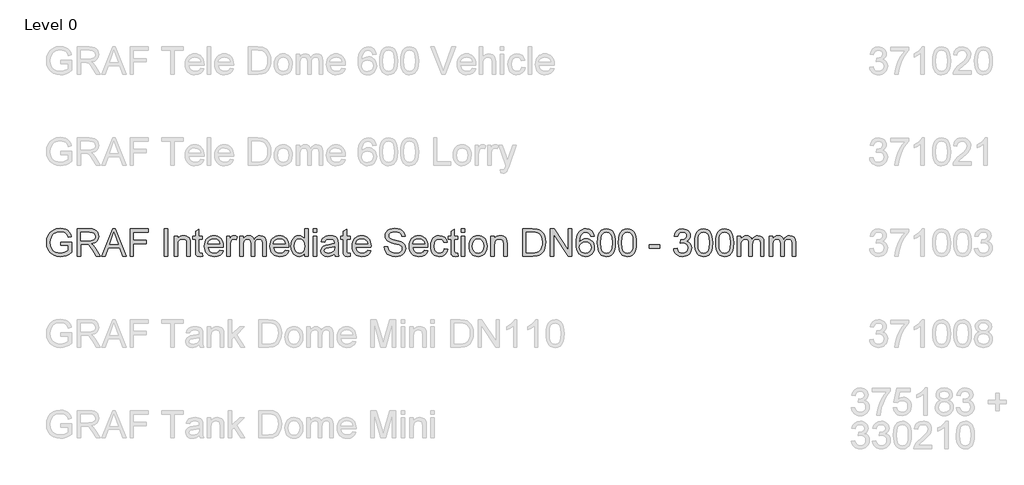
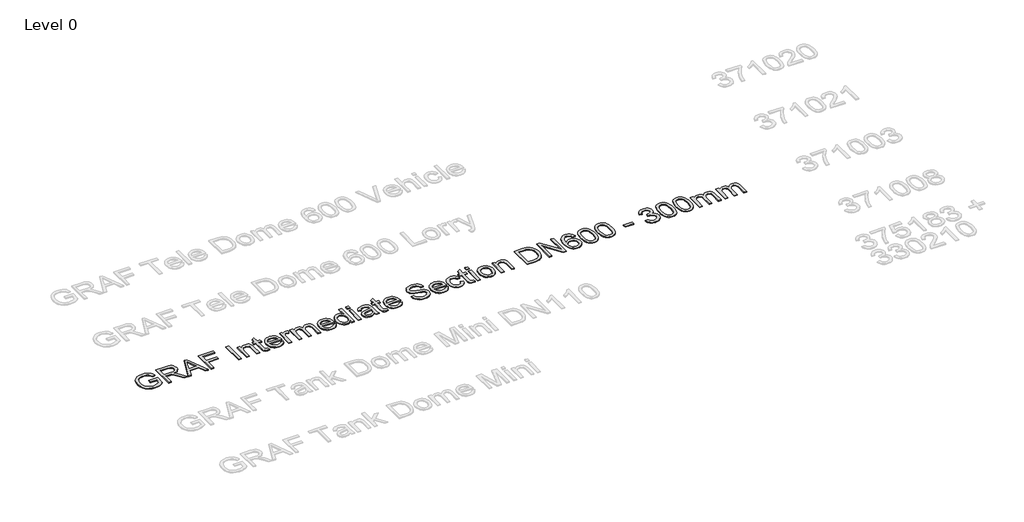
# One storey, part 6 of 19: 1 proxy.
"""IFC4 building model written with IfcOpenShell, lengths in millimetres."""

from ifc_helpers import new_model, si_unit, origin, origin_with_axes, place, context, project, spatial, polyline, outline, extrude, element, save

model = new_model("IFC4")

# Units and contexts
model_context = context("Model", 3, world=origin())
ifc_project = project(units=[si_unit("LENGTHUNIT", "METRE", prefix="MILLI")], contexts=[model_context])

# Site, building, storey
site = spatial("IfcSite", under=ifc_project)
building = spatial("IfcBuilding", under=site)
storey = spatial("IfcBuildingStorey", under=building, Name="Level 0", Elevation=0.0)

# Proxy
placement = place(None, origin())
element("IfcBuildingElementProxy", 1, Name="300mm Arial", ObjectType="300mm Arial", at=placement, inside=storey, context=model_context, shape_type="SweptSolid", body=[
    extrude(outline(polyline([(-15240.9940387, -13082.9794047), (-15240.9940387, -13045.3082884), (-15118.5629107, -13045.3082884), (-15118.5629107, -13157.9537553), (-15148.3153671, -13178.6471176), (-15179.0059225, -13193.4911561), (-15210.5610007, -13202.4306885), (-15242.9070251, -13205.4105327), (-15285.1674693, -13200.674052), (-15323.3628175, -13186.46461), (-15355.0926395, -13163.2788472), (-15377.9565055, -13131.6134045), (-15391.7796715, -13093.6295885), (-15396.3873935, -13051.4887059), (-15391.7980656, -13009.0443207), (-15378.0300819, -12969.5613856), (-15355.6536596, -12936.442809), (-15325.2390156, -12913.0914993), (-15288.1932987, -12899.2407422), (-15245.9236575, -12894.6238232), (-15214.8928112, -12897.3001647), (-15186.9889618, -12905.3291892), (-15163.4904994, -12918.1314827), (-15145.6758138, -12935.1276309), (-15132.4964413, -12957.1361712), (-15122.9039183, -12984.9756412), (-15157.6319786, -12994.7613023), (-15165.3850917, -12974.9048716), (-15174.8120678, -12959.9228773), (-15187.2832674, -12948.6289001), (-15204.169051, -12939.8365204), (-15224.3013932, -12934.1803347), (-15246.5122687, -12932.2949395), (-15272.5123287, -12934.3274875), (-15294.7415982, -12940.4251316), (-15313.1173039, -12949.8245166), (-15327.5566722, -12961.7622873), (-15346.9440533, -12990.7881767), (-15355.7732212, -13019.225455), (-15358.7162772, -13049.9436015), (-15355.175413, -13085.9684459), (-15344.5528204, -13115.6105377), (-15327.1703961, -13138.6583447), (-15303.3500369, -13154.9003348), (-15275.4737787, -13164.529646), (-15245.9236575, -13167.7394164), (-15219.831627, -13165.3205923), (-15194.3833899, -13158.0641199), (-15172.2828791, -13148.0669267), (-15156.234027, -13137.42594), (-15156.234027, -13082.9794047), (-15240.9940387, -13082.9794047)])), origin_with_axes(), (0.0, 0.0, 1.0), 10.0),
    extrude(outline(polyline([(-15057.3473467, -13200.7016432), (-15057.3473467, -12899.3327127), (-14927.4850024, -12899.3327127), (-14892.5821982, -12901.3652607), (-14867.1891434, -12907.4629048), (-14848.6294968, -12918.7200939), (-14834.2269167, -12936.2312768), (-14824.9838815, -12957.9455116), (-14821.9028698, -12981.811856), (-14827.0072325, -13011.4999331), (-14842.3203206, -13036.1112385), (-14853.9200997, -13046.1406214), (-14868.3019865, -13054.1558504), (-14905.4120827, -13064.1438466), (-14884.0013506, -13080.257078), (-14853.467145, -13119.0318402), (-14803.2144645, -13200.7016432), (-14846.9924219, -13200.7016432), (-14886.2086426, -13138.2352804), (-14914.5355562, -13096.8853441), (-14934.4379722, -13077.3508102), (-14952.3538253, -13070.1771113), (-14974.2060158, -13068.8527361), (-15019.6762304, -13068.8527361), (-15019.6762304, -13200.7016432), (-15057.3473467, -13200.7016432)]), holes=[polyline([(-15019.6762304, -13031.1816198), (-14935.3576771, -13031.1816198), (-14911.1418448, -13029.8480476), (-14892.3522719, -13025.8473309), (-14878.2072092, -13018.9127553), (-14867.9249074, -13008.7776063), (-14861.6617165, -12996.5179388), (-14859.5739861, -12983.2098076), (-14863.5563087, -12964.834102), (-14875.5032765, -12950.0268517), (-14896.058683, -12940.2595847), (-14925.8663217, -12937.003829), (-15019.6762304, -12937.003829), (-15019.6762304, -13031.1816198)])]), origin_with_axes(), (0.0, 0.0, 1.0), 10.0),
    extrude(outline(polyline([(-14791.0743586, -13200.7016432), (-14670.7769462, -12899.3327127), (-14638.6976362, -12899.3327127), (-14518.4002238, -13200.7016432), (-14558.2050557, -13200.7016432), (-14592.7123868, -13106.5238524), (-14716.835772, -13106.5238524), (-14751.2695268, -13200.7016432), (-14791.0743586, -13200.7016432)]), holes=[polyline([(-14703.003409, -13068.8527361), (-14606.4711735, -13068.8527361), (-14633.6208647, -12994.7613023), (-14654.7372912, -12937.003829), (-14673.499273, -12988.2865792), (-14703.003409, -13068.8527361)])]), origin_with_axes(), (0.0, 0.0, 1.0), 10.0),
    extrude(outline(polyline([(-14478.1539335, -13200.7016432), (-14478.1539335, -12899.3327127), (-14275.6716834, -12899.3327127), (-14275.6716834, -12937.003829), (-14440.4828172, -12937.003829), (-14440.4828172, -13026.4727303), (-14299.2161311, -13026.4727303), (-14299.2161311, -13064.1438466), (-14440.4828172, -13064.1438466), (-14440.4828172, -13200.7016432), (-14478.1539335, -13200.7016432)])), origin_with_axes(), (0.0, 0.0, 1.0), 10.0),
    extrude(outline(polyline([(-14101.4427705, -13200.7016432), (-14101.4427705, -12899.3327127), (-14063.7716542, -12899.3327127), (-14063.7716542, -13200.7016432), (-14101.4427705, -13200.7016432)])), origin_with_axes(), (0.0, 0.0, 1.0), 10.0),
    extrude(outline(polyline([(-13993.1383111, -13200.7016432), (-13993.1383111, -12979.3838349), (-13955.4671948, -12979.3838349), (-13955.4671948, -13010.2859225), (-13942.3797928, -12994.70612), (-13926.6620346, -12983.5776896), (-13908.3139201, -12976.9006314), (-13887.3354493, -12974.6749453), (-13868.7666056, -12976.4683701), (-13851.7612603, -12981.8486442), (-13837.5794094, -12990.1443832), (-13827.4810487, -13000.6842024), (-13816.1870714, -13028.3857166), (-13814.2005086, -13064.8060342), (-13814.2005086, -13200.7016432), (-13851.8716249, -13200.7016432), (-13851.8716249, -13069.8828057), (-13856.2126325, -13036.5526969), (-13862.2183061, -13026.6290801), (-13871.5533117, -13018.9311494), (-13883.5186736, -13013.9923336), (-13897.415416, -13012.3460616), (-13919.4791386, -13016.0432757), (-13938.2871056, -13027.1349178), (-13945.8033946, -13036.1894135), (-13951.1721725, -13048.5640441), (-13955.4671948, -13083.2737103), (-13955.4671948, -13200.7016432), (-13993.1383111, -13200.7016432)])), origin_with_axes(), (0.0, 0.0, 1.0), 10.0),
    extrude(outline(polyline([(-13682.3516016, -13169.2845208), (-13677.642712, -13201.8052892), (-13705.8224729, -13205.4105327), (-13723.9038729, -13203.8470342), (-13737.386748, -13199.1565388), (-13746.9148917, -13191.9276576), (-13753.1320974, -13182.7490018), (-13756.5534, -13166.9852583), (-13757.6938342, -13140.001114), (-13757.6938342, -13017.0549512), (-13785.9471714, -13017.0549512), (-13785.9471714, -12979.3838349), (-13757.6938342, -12979.3838349), (-13757.6938342, -12925.5994872), (-13720.0227179, -12903.4529911), (-13720.0227179, -12979.3838349), (-13682.3516016, -12979.3838349), (-13682.3516016, -13017.0549512), (-13720.0227179, -13017.0549512), (-13720.0227179, -13138.897468), (-13718.0361551, -13158.3216373), (-13711.5982202, -13165.2010306), (-13698.7591386, -13167.7394164), (-13682.3516016, -13169.2845208)])), origin_with_axes(), (0.0, 0.0, 1.0), 10.0),
    extrude(outline(polyline([(-13489.7285889, -13134.7771896), (-13452.7932366, -13139.4860792), (-13466.1013678, -13167.3163521), (-13487.3373559, -13188.1200789), (-13516.0229545, -13201.0879193), (-13551.6799169, -13205.4105327), (-13575.0542192, -13203.5458308), (-13595.8809386, -13197.9517253), (-13614.1600752, -13188.6282159), (-13629.8916291, -13175.5753029), (-13642.5421712, -13159.1562696), (-13651.5782727, -13139.7343995), (-13656.9999336, -13117.3096927), (-13658.8071539, -13091.882149), (-13656.9815395, -13065.5923819), (-13651.5046963, -13042.4204147), (-13642.3766243, -13022.3662475), (-13629.5973235, -13005.4298801), (-13613.9071564, -12991.9745962), (-13596.0464855, -12982.363679), (-13576.0153109, -12976.5971288), (-13553.8136325, -12974.6749453), (-13532.3270247, -12976.5925302), (-13512.8959575, -12982.3452849), (-13495.5204311, -12991.9332094), (-13480.2004452, -13005.3563037), (-13467.6947566, -13022.2558829), (-13458.762122, -13042.2732619), (-13453.4025411, -13065.4084409), (-13451.6160142, -13091.6614198), (-13451.8367434, -13101.8149629), (-13621.1360376, -13101.8149629), (-13614.6153292, -13130.0131178), (-13599.4677881, -13150.7432682), (-13577.6064005, -13163.4903794), (-13550.9441529, -13167.7394164), (-13530.8945842, -13165.7712477), (-13514.0088006, -13159.8667417), (-13500.2868022, -13149.6580163), (-13489.7285889, -13134.7771896)]), holes=[polyline([(-13621.1360376, -13064.1438466), (-13489.2871305, -13064.1438466), (-13494.3822961, -13044.2414306), (-13504.3702923, -13030.0043974), (-13526.3328474, -13016.7606456), (-13553.9607853, -13012.3460616), (-13579.35384, -13015.8685317), (-13600.3507048, -13026.4359421), (-13614.946423, -13042.9078584), (-13621.1360376, -13064.1438466)])]), origin_with_axes(), (0.0, 0.0, 1.0), 10.0),
    extrude(outline(polyline([(-13413.9448979, -13200.7016432), (-13413.9448979, -12979.3838349), (-13380.9826711, -12979.3838349), (-13380.9826711, -13012.1253324), (-13368.8057771, -12993.1426215), (-13357.5853762, -12981.9590088), (-13346.3281872, -12976.4959612), (-13334.0409285, -12974.6749453), (-13315.2789468, -12977.5812131), (-13296.2226594, -12986.3000164), (-13308.8042237, -13020.0715835), (-13322.0479755, -13014.2774421), (-13335.2917273, -13012.3460616), (-13346.5397193, -13014.2038657), (-13356.5920948, -13019.7772779), (-13364.7130899, -13028.643234), (-13370.1669405, -13040.3786697), (-13374.7470713, -13061.4215198), (-13376.2737816, -13084.3773563), (-13376.2737816, -13200.7016432), (-13413.9448979, -13200.7016432)])), origin_with_axes(), (0.0, 0.0, 1.0), 10.0),
    extrude(outline(polyline([(-13272.6782117, -13200.7016432), (-13272.6782117, -12979.3838349), (-13235.0070954, -12979.3838349), (-13235.0070954, -13015.8041524), (-13223.67633, -12999.0747187), (-13209.108203, -12985.9689226), (-13191.7993551, -12977.4984396), (-13172.2464271, -12974.6749453), (-13151.2955474, -12977.5536219), (-13134.5017344, -12986.1896518), (-13121.9569583, -13000.0128178), (-13113.7531898, -13018.4529028), (-13100.0219944, -12999.3000464), (-13084.3594184, -12985.6194347), (-13066.765462, -12977.4110677), (-13047.2401251, -12974.6749453), (-13018.9224085, -12979.227485), (-12997.9807259, -12992.8851041), (-12985.0404768, -13016.0156845), (-12980.7270604, -13048.9871084), (-12980.7270604, -13200.7016432), (-13018.3981767, -13200.7016432), (-13018.3981767, -13065.1739161), (-13021.8930556, -13033.7200056), (-13026.8042803, -13025.0471875), (-13034.5481963, -13018.2321736), (-13044.5086013, -13013.8175896), (-13056.069293, -13012.3460616), (-13076.4775467, -13016.1168521), (-13093.1150099, -13027.4292234), (-13104.1790609, -13047.0557279), (-13107.8670779, -13075.7689176), (-13107.8670779, -13200.7016432), (-13145.5381942, -13200.7016432), (-13145.5381942, -13060.9800614), (-13147.717895, -13039.6796939), (-13154.2569975, -13024.4861675), (-13165.7625069, -13015.3810881), (-13182.8414285, -13012.3460616), (-13197.3543732, -13014.3694126), (-13210.7268838, -13020.4394655), (-13221.7633436, -13030.4090676), (-13229.2681363, -13044.131066), (-13233.5723557, -13063.1689593), (-13235.0070954, -13089.0862458), (-13235.0070954, -13200.7016432), (-13272.6782117, -13200.7016432)])), origin_with_axes(), (0.0, 0.0, 1.0), 10.0),
    extrude(outline(polyline([(-12769.2684895, -13134.7771896), (-12732.3331372, -13139.4860792), (-12745.6412684, -13167.3163521), (-12766.8772566, -13188.1200789), (-12795.5628551, -13201.0879193), (-12831.2198175, -13205.4105327), (-12854.5941198, -13203.5458308), (-12875.4208393, -13197.9517253), (-12893.6999759, -13188.6282159), (-12909.4315297, -13175.5753029), (-12922.0820718, -13159.1562696), (-12931.1181733, -13139.7343995), (-12936.5398342, -13117.3096927), (-12938.3470545, -13091.882149), (-12936.5214401, -13065.5923819), (-12931.0445969, -13042.4204147), (-12921.9165249, -13022.3662475), (-12909.1372241, -13005.4298801), (-12893.447057, -12991.9745962), (-12875.5863861, -12982.363679), (-12855.5552115, -12976.5971288), (-12833.3535331, -12974.6749453), (-12811.8669253, -12976.5925302), (-12792.4358582, -12982.3452849), (-12775.0603317, -12991.9332094), (-12759.7403459, -13005.3563037), (-12747.2346573, -13022.2558829), (-12738.3020226, -13042.2732619), (-12732.9424418, -13065.4084409), (-12731.1559148, -13091.6614198), (-12731.376644, -13101.8149629), (-12900.6759382, -13101.8149629), (-12894.1552299, -13130.0131178), (-12879.0076887, -13150.7432682), (-12857.1463011, -13163.4903794), (-12830.4840535, -13167.7394164), (-12810.4344848, -13165.7712477), (-12793.5487012, -13159.8667417), (-12779.8267028, -13149.6580163), (-12769.2684895, -13134.7771896)]), holes=[polyline([(-12900.6759382, -13064.1438466), (-12768.8270311, -13064.1438466), (-12773.9221968, -13044.2414306), (-12783.910193, -13030.0043974), (-12805.8727481, -13016.7606456), (-12833.5006859, -13012.3460616), (-12858.8937406, -13015.8685317), (-12879.8906055, -13026.4359421), (-12894.4863237, -13042.9078584), (-12900.6759382, -13064.1438466)])]), origin_with_axes(), (0.0, 0.0, 1.0), 10.0),
    extrude(outline(polyline([(-12556.9270019, -13200.7016432), (-12556.9270019, -13165.1642424), (-12568.1979866, -13182.7719944), (-12581.8510071, -13195.3489601), (-12597.8860636, -13202.8951396), (-12616.3031559, -13205.4105327), (-12640.656944, -13201.768501), (-12662.9505929, -13190.8424057), (-12681.8229393, -13173.3956021), (-12695.9128197, -13150.1914452), (-12704.6868053, -13122.1680343), (-12707.6114672, -13090.2634682), (-12704.9167315, -13058.7543753), (-12696.8325247, -13030.298703), (-12683.3680437, -13006.515132), (-12664.5324855, -12989.0223431), (-12641.751393, -12978.2617948), (-12616.4503087, -12974.6749453), (-12598.0194208, -12977.2409223), (-12581.7222484, -12984.938853), (-12567.9082795, -12996.738668), (-12556.9270019, -13011.6102977), (-12556.9270019, -12899.3327127), (-12519.2558856, -12899.3327127), (-12519.2558856, -13200.7016432), (-12556.9270019, -13200.7016432)]), holes=[polyline([(-12669.9403508, -13090.1163154), (-12665.6913138, -13124.1913852), (-12652.9442027, -13148.4256117), (-12634.4213442, -13162.9109652), (-12612.8450652, -13167.7394164), (-12591.2779832, -13163.1316944), (-12573.2241743, -13149.3085284), (-12561.001295, -13126.0124011), (-12556.9270019, -13092.985795), (-12561.0748714, -13056.8781772), (-12573.5184799, -13031.8438074), (-12592.0321413, -13017.2204981), (-12614.3901696, -13012.3460616), (-12636.1871778, -13017.02736), (-12654.0478487, -13031.0712552), (-12665.9672253, -13055.195117), (-12669.9403508, -13090.1163154)])]), origin_with_axes(), (0.0, 0.0, 1.0), 10.0),
    extrude(outline(polyline([(-12462.7492112, -12937.003829), (-12462.7492112, -12899.3327127), (-12425.0780949, -12899.3327127), (-12425.0780949, -12937.003829), (-12462.7492112, -12937.003829)])), origin_with_axes(), (0.0, 0.0, 1.0), 10.0),
    extrude(outline(polyline([(-12462.7492112, -13200.7016432), (-12462.7492112, -12979.3838349), (-12425.0780949, -12979.3838349), (-12425.0780949, -13200.7016432), (-12462.7492112, -13200.7016432)])), origin_with_axes(), (0.0, 0.0, 1.0), 10.0),
    extrude(outline(polyline([(-12227.3047342, -13172.4483059), (-12245.3033609, -13187.8809556), (-12263.8354164, -13197.9793164), (-12283.3239651, -13203.5527286), (-12304.1920712, -13205.4105327), (-12335.673573, -13200.9407665), (-12358.8961239, -13187.5314677), (-12373.2159306, -13167.1691993), (-12377.9891995, -13141.8405239), (-12376.1865777, -13126.2239332), (-12370.7787124, -13112.0420823), (-12362.4369881, -13099.9019765), (-12351.8327896, -13090.410621), (-12325.4556506, -13078.049786), (-12292.8613058, -13072.3844033), (-12254.3440609, -13066.4247149), (-12227.5254634, -13059.434957), (-12227.3047342, -13051.0472475), (-12229.8983023, -13034.2350404), (-12237.6790065, -13023.2353687), (-12255.0798249, -13015.0683884), (-12279.3232484, -13012.3460616), (-12301.7640501, -13014.1578805), (-12317.4358231, -13019.5933369), (-12328.122795, -13029.6457125), (-12335.6091936, -13045.3082884), (-12373.2803099, -13040.5993989), (-12366.7412075, -13019.9980071), (-12356.9831375, -13003.8111994), (-12343.0955922, -12991.4319702), (-12324.1680636, -12982.2533144), (-12301.019089, -12976.5695376), (-12274.467206, -12974.6749453), (-12249.0005749, -12976.3488084), (-12228.8130504, -12981.3703976), (-12213.5919329, -12988.9211756), (-12203.0245226, -12998.1826048), (-12196.0163706, -13009.6329319), (-12191.4730279, -13023.7504035), (-12189.6336179, -13056.7126303), (-12189.6336179, -13103.5807964), (-12187.7206316, -13169.0270034), (-12180.2158389, -13200.7016432), (-12217.8869552, -13200.7016432), (-12227.3047342, -13172.4483059)]), holes=[polyline([(-12227.3047342, -13097.1060733), (-12288.0788399, -13108.657568), (-12320.4892436, -13114.7644091), (-12335.1677352, -13124.697223), (-12340.3180832, -13139.1917736), (-12337.512983, -13150.3937803), (-12329.0976823, -13159.5724361), (-12315.2561222, -13165.6976713), (-12296.1722437, -13167.7394164), (-12275.938734, -13165.4861392), (-12258.059669, -13158.7263075), (-12243.5651184, -13148.7659025), (-12233.4851518, -13136.9109052), (-12229.0153855, -13124.697223), (-12227.5254634, -13107.7746512), (-12227.3047342, -13097.1060733)])]), origin_with_axes(), (0.0, 0.0, 1.0), 10.0),
    extrude(outline(polyline([(-12057.7847109, -13169.2845208), (-12053.0758213, -13201.8052892), (-12081.2555822, -13205.4105327), (-12099.3369822, -13203.8470342), (-12112.8198573, -13199.1565388), (-12122.348001, -13191.9276576), (-12128.5652067, -13182.7490018), (-12131.9865093, -13166.9852583), (-12133.1269435, -13140.001114), (-12133.1269435, -13017.0549512), (-12161.3802807, -13017.0549512), (-12161.3802807, -12979.3838349), (-12133.1269435, -12979.3838349), (-12133.1269435, -12925.5994872), (-12095.4558272, -12903.4529911), (-12095.4558272, -12979.3838349), (-12057.7847109, -12979.3838349), (-12057.7847109, -13017.0549512), (-12095.4558272, -13017.0549512), (-12095.4558272, -13138.897468), (-12093.4692644, -13158.3216373), (-12087.0313295, -13165.2010306), (-12074.1922479, -13167.7394164), (-12057.7847109, -13169.2845208)])), origin_with_axes(), (0.0, 0.0, 1.0), 10.0),
    extrude(outline(polyline([(-11865.1616982, -13134.7771896), (-11828.2263459, -13139.4860792), (-11841.5344771, -13167.3163521), (-11862.7704652, -13188.1200789), (-11891.4560638, -13201.0879193), (-11927.1130262, -13205.4105327), (-11950.4873285, -13203.5458308), (-11971.3140479, -13197.9517253), (-11989.5931845, -13188.6282159), (-12005.3247384, -13175.5753029), (-12017.9752805, -13159.1562696), (-12027.011382, -13139.7343995), (-12032.4330429, -13117.3096927), (-12034.2402632, -13091.882149), (-12032.4146488, -13065.5923819), (-12026.9378056, -13042.4204147), (-12017.8097336, -13022.3662475), (-12005.0304328, -13005.4298801), (-11989.3402657, -12991.9745962), (-11971.4795948, -12982.363679), (-11951.4484202, -12976.5971288), (-11929.2467418, -12974.6749453), (-11907.760134, -12976.5925302), (-11888.3290668, -12982.3452849), (-11870.9535404, -12991.9332094), (-11855.6335545, -13005.3563037), (-11843.1278659, -13022.2558829), (-11834.1952313, -13042.2732619), (-11828.8356504, -13065.4084409), (-11827.0491235, -13091.6614198), (-11827.2698527, -13101.8149629), (-11996.5691469, -13101.8149629), (-11990.0484385, -13130.0131178), (-11974.9008974, -13150.7432682), (-11953.0395098, -13163.4903794), (-11926.3772622, -13167.7394164), (-11906.3276935, -13165.7712477), (-11889.4419099, -13159.8667417), (-11875.7199115, -13149.6580163), (-11865.1616982, -13134.7771896)]), holes=[polyline([(-11996.5691469, -13064.1438466), (-11864.7202398, -13064.1438466), (-11869.8154054, -13044.2414306), (-11879.8034016, -13030.0043974), (-11901.7659567, -13016.7606456), (-11929.3938946, -13012.3460616), (-11954.7869493, -13015.8685317), (-11975.7838141, -13026.4359421), (-11990.3795323, -13042.9078584), (-11996.5691469, -13064.1438466)])]), origin_with_axes(), (0.0, 0.0, 1.0), 10.0),
    extrude(outline(polyline([(-11681.0735478, -13097.1060733), (-11643.4024315, -13097.1060733), (-11639.0798181, -13118.0109677), (-11631.2623257, -13134.8139778), (-11619.0670375, -13148.1497002), (-11601.6110369, -13158.6527311), (-11580.2738811, -13165.4677451), (-11556.4351278, -13167.7394164), (-11535.44746, -13166.0195681), (-11517.0717544, -13160.8600231), (-11502.1817306, -13152.6930428), (-11491.6511085, -13141.9508885), (-11485.3879175, -13129.6176447), (-11483.3001872, -13116.6773955), (-11484.8636857, -13104.0682401), (-11489.5541811, -13093.169736), (-11499.0823248, -13083.8715186), (-11515.158768, -13076.0632232), (-11570.0099735, -13061.6790372), (-11606.0164237, -13052.1600906), (-11629.0550337, -13043.1009964), (-11647.8078184, -13030.4274617), (-11661.0975555, -13015.0683884), (-11669.0162154, -12997.3548703), (-11671.6557687, -12977.6180013), (-11668.390816, -12955.5542786), (-11658.5959579, -12934.9804781), (-11642.5287118, -12917.5428715), (-11620.446595, -12904.8877309), (-11593.9406973, -12897.1898001), (-11564.6021081, -12894.6238232), (-11532.8171038, -12897.3093618), (-11505.0052249, -12905.3659774), (-11482.159753, -12918.6281234), (-11465.2739694, -12936.9302526), (-11454.5869975, -12959.131931), (-11450.3379604, -12984.0927244), (-11488.0090767, -12984.0927244), (-11494.9252582, -12961.6151345), (-11509.3462325, -12945.3915385), (-11531.8790047, -12935.5690892), (-11563.1305802, -12932.2949395), (-11595.1179196, -12935.532301), (-11617.0620806, -12945.2443857), (-11629.7540095, -12959.5366012), (-11633.9846524, -12976.5143553), (-11630.9864142, -12990.9905118), (-11621.9916994, -13002.633977), (-11600.7281201, -13013.0450374), (-11560.4818298, -13023.6768271), (-11518.9479525, -13033.7751879), (-11493.8216123, -13042.5859616), (-11472.3465008, -13056.2527778), (-11457.3645065, -13073.1201672), (-11448.5629298, -13093.0041891), (-11445.6290709, -13115.7209023), (-11449.0043882, -13138.9434532), (-11459.1303401, -13160.7864467), (-11475.5930594, -13179.5852166), (-11497.9786788, -13193.6750971), (-11524.8984438, -13202.4766738), (-11554.9635999, -13205.4105327), (-11591.871361, -13202.2467476), (-11622.2492168, -13192.7553921), (-11646.446655, -13176.8996781), (-11664.8131636, -13154.6428174), (-11676.6037816, -13127.5299143), (-11681.0735478, -13097.1060733)])), origin_with_axes(), (0.0, 0.0, 1.0), 10.0),
    extrude(outline(polyline([(-11238.8793896, -13134.7771896), (-11201.9440373, -13139.4860792), (-11215.2521685, -13167.3163521), (-11236.4881566, -13188.1200789), (-11265.1737552, -13201.0879193), (-11300.8307176, -13205.4105327), (-11324.2050199, -13203.5458308), (-11345.0317393, -13197.9517253), (-11363.310876, -13188.6282159), (-11379.0424298, -13175.5753029), (-11391.6929719, -13159.1562696), (-11400.7290734, -13139.7343995), (-11406.1507343, -13117.3096927), (-11407.9579546, -13091.882149), (-11406.1323402, -13065.5923819), (-11400.655497, -13042.4204147), (-11391.527425, -13022.3662475), (-11378.7481242, -13005.4298801), (-11363.0579571, -12991.9745962), (-11345.1972862, -12982.363679), (-11325.1661116, -12976.5971288), (-11302.9644332, -12974.6749453), (-11281.4778254, -12976.5925302), (-11262.0467583, -12982.3452849), (-11244.6712318, -12991.9332094), (-11229.3512459, -13005.3563037), (-11216.8455574, -13022.2558829), (-11207.9129227, -13042.2732619), (-11202.5533418, -13065.4084409), (-11200.7668149, -13091.6614198), (-11200.9875441, -13101.8149629), (-11370.2868383, -13101.8149629), (-11363.7661299, -13130.0131178), (-11348.6185888, -13150.7432682), (-11326.7572012, -13163.4903794), (-11300.0949536, -13167.7394164), (-11280.0453849, -13165.7712477), (-11263.1596013, -13159.8667417), (-11249.4376029, -13149.6580163), (-11238.8793896, -13134.7771896)]), holes=[polyline([(-11370.2868383, -13064.1438466), (-11238.4379312, -13064.1438466), (-11243.5330968, -13044.2414306), (-11253.521093, -13030.0043974), (-11275.4836481, -13016.7606456), (-11303.111586, -13012.3460616), (-11328.5046407, -13015.8685317), (-11349.5015056, -13026.4359421), (-11364.0972237, -13042.9078584), (-11370.2868383, -13064.1438466)])]), origin_with_axes(), (0.0, 0.0, 1.0), 10.0),
    extrude(outline(polyline([(-11021.8290125, -13120.650521), (-10984.1578961, -13125.3594106), (-10994.6609271, -13158.8642633), (-11014.3977961, -13184.1837416), (-11041.5106992, -13200.1038349), (-11074.1418322, -13205.4105327), (-11095.269755, -13203.5596264), (-11114.2133785, -13198.0069076), (-11130.9727026, -13188.7523761), (-11145.5477274, -13175.7960321), (-11157.3452432, -13159.3815973), (-11165.7720401, -13139.7527936), (-11170.8281183, -13116.909621), (-11172.5134777, -13090.8520794), (-11169.6348011, -13057.3288326), (-11160.9987712, -13028.275352), (-11146.4674324, -13004.8136778), (-11125.9028289, -12988.06585), (-11101.3007205, -12978.0226715), (-11074.656867, -12974.6749453), (-11042.8258773, -12979.2734703), (-11017.3776403, -12993.0690451), (-10999.1214963, -13015.3259058), (-10988.8667857, -13045.3082884), (-11026.537902, -13050.0171779), (-11033.3713101, -13033.5820498), (-11044.0122968, -13021.8006289), (-11057.8722509, -13014.7097035), (-11074.3625614, -13012.3460616), (-11098.7071524, -13016.9997689), (-11118.0301542, -13030.9608906), (-11130.6393096, -13054.9835849), (-11134.8423614, -13089.8220098), (-11130.7312801, -13125.1294843), (-11118.3980362, -13149.234952), (-11099.4245223, -13163.1133003), (-11075.392631, -13167.7394164), (-11055.8856882, -13164.8515427), (-11039.8920184, -13156.1879218), (-11028.2577503, -13141.5278242), (-11021.8290125, -13120.650521)])), origin_with_axes(), (0.0, 0.0, 1.0), 10.0),
    extrude(outline(polyline([(-10871.1445472, -13169.2845208), (-10866.4356577, -13201.8052892), (-10894.6154185, -13205.4105327), (-10912.6968186, -13203.8470342), (-10926.1796937, -13199.1565388), (-10935.7078374, -13191.9276576), (-10941.9250431, -13182.7490018), (-10945.3463457, -13166.9852583), (-10946.4867798, -13140.001114), (-10946.4867798, -13017.0549512), (-10974.7401171, -13017.0549512), (-10974.7401171, -12979.3838349), (-10946.4867798, -12979.3838349), (-10946.4867798, -12925.5994872), (-10908.8156635, -12903.4529911), (-10908.8156635, -12979.3838349), (-10871.1445472, -12979.3838349), (-10871.1445472, -13017.0549512), (-10908.8156635, -13017.0549512), (-10908.8156635, -13138.897468), (-10906.8291008, -13158.3216373), (-10900.3911658, -13165.2010306), (-10887.5520842, -13167.7394164), (-10871.1445472, -13169.2845208)])), origin_with_axes(), (0.0, 0.0, 1.0), 10.0),
    extrude(outline(polyline([(-10833.4734309, -12937.003829), (-10833.4734309, -12899.3327127), (-10795.8023146, -12899.3327127), (-10795.8023146, -12937.003829), (-10833.4734309, -12937.003829)])), origin_with_axes(), (0.0, 0.0, 1.0), 10.0),
    extrude(outline(polyline([(-10833.4734309, -13200.7016432), (-10833.4734309, -12979.3838349), (-10795.8023146, -12979.3838349), (-10795.8023146, -13200.7016432), (-10833.4734309, -13200.7016432)])), origin_with_axes(), (0.0, 0.0, 1.0), 10.0),
    extrude(outline(polyline([(-10748.7134192, -13090.042739), (-10746.6762727, -13061.3801331), (-10740.564833, -13036.6814556), (-10730.3791003, -13015.9467067), (-10716.1190745, -12999.1758862), (-10701.7624796, -12988.4567246), (-10685.9159627, -12980.8001806), (-10668.5795236, -12976.2062541), (-10649.7531625, -12974.6749453), (-10628.9701291, -12976.5396472), (-10610.1782569, -12982.1337528), (-10593.377546, -12991.4572621), (-10578.5679965, -13004.5101751), (-10566.4807737, -13020.8510335), (-10557.8470431, -13040.0383788), (-10552.6668047, -13062.0722111), (-10550.9400586, -13086.9525303), (-10553.9934792, -13125.0099227), (-10563.1537409, -13153.9806298), (-10578.1541292, -13175.6764705), (-10598.7279298, -13191.9092635), (-10623.1644913, -13202.0352154), (-10649.7531625, -13205.4105327), (-10670.8396986, -13203.5527286), (-10689.8063148, -13197.9793164), (-10706.6530109, -13188.690296), (-10721.379787, -13175.6856675), (-10733.3382511, -13159.18616), (-10741.8800112, -13139.4125028), (-10747.0050672, -13116.3646958), (-10748.7134192, -13090.042739)]), holes=[polyline([(-10711.0423029, -13089.9691626), (-10706.6829013, -13124.0626265), (-10693.6046964, -13148.3520353), (-10673.9230096, -13162.8925711), (-10649.7531625, -13167.7394164), (-10625.69368, -13162.86498), (-10606.0487815, -13148.2416707), (-10592.9705766, -13123.6303652), (-10588.6111749, -13088.7919402), (-10592.9981677, -13055.6917577), (-10606.1591461, -13031.7334428), (-10625.8316358, -13017.1929069), (-10649.7531625, -13012.3460616), (-10673.9230096, -13017.1745128), (-10693.6046964, -13031.6598664), (-10706.6829013, -13055.8940928), (-10711.0423029, -13089.9691626)])]), origin_with_axes(), (0.0, 0.0, 1.0), 10.0),
    extrude(outline(polyline([(-10508.5600528, -13200.7016432), (-10508.5600528, -12979.3838349), (-10470.8889365, -12979.3838349), (-10470.8889365, -13010.2859225), (-10457.8015345, -12994.70612), (-10442.0837763, -12983.5776896), (-10423.7356617, -12976.9006314), (-10402.757191, -12974.6749453), (-10384.1883473, -12976.4683701), (-10367.183002, -12981.8486442), (-10353.0011511, -12990.1443832), (-10342.9027904, -13000.6842024), (-10331.6088131, -13028.3857166), (-10329.6222503, -13064.8060342), (-10329.6222503, -13200.7016432), (-10367.2933666, -13200.7016432), (-10367.2933666, -13069.8828057), (-10371.6343742, -13036.5526969), (-10377.6400477, -13026.6290801), (-10386.9750534, -13018.9311494), (-10398.9404153, -13013.9923336), (-10412.8371576, -13012.3460616), (-10434.9008803, -13016.0432757), (-10453.7088473, -13027.1349178), (-10461.2251363, -13036.1894135), (-10466.5939142, -13048.5640441), (-10470.8889365, -13083.2737103), (-10470.8889365, -13200.7016432), (-10508.5600528, -13200.7016432)])), origin_with_axes(), (0.0, 0.0, 1.0), 10.0),
    extrude(outline(polyline([(-10155.3933374, -13200.7016432), (-10155.3933374, -12899.3327127), (-10051.4298856, -12899.3327127), (-9997.6455379, -12903.6737203), (-9973.6228436, -12912.0430357), (-9953.3525457, -12925.2316052), (-9932.5120306, -12948.1874417), (-9917.6679921, -12976.7350845), (-9908.7836419, -13010.3227107), (-9905.8221919, -13048.3984972), (-9907.8271488, -13080.7445216), (-9913.8420194, -13109.209391), (-9923.0022811, -13133.4436174), (-9934.4434111, -13153.097713), (-9947.6135865, -13168.6131361), (-9961.9609843, -13180.4313452), (-9978.4329007, -13189.1961338), (-9997.9766317, -13195.5512952), (-10046.4266904, -13200.7016432), (-10155.3933374, -13200.7016432)]), holes=[polyline([(-10117.7222211, -13163.0305269), (-10051.0620036, -13163.0305269), (-10023.489248, -13161.6693635), (-10002.5751566, -13157.5858733), (-9986.793019, -13151.0191797), (-9974.616125, -13142.2084059), (-9961.528723, -13125.9020365), (-9951.6970767, -13104.794807), (-9945.5442503, -13078.794747), (-9943.4933082, -13047.809886), (-9947.512419, -13006.7542553), (-9959.5697514, -12976.4407789), (-9977.384437, -12955.618658), (-9998.6756075, -12943.0370938), (-10020.343857, -12938.5121452), (-10052.0920732, -12937.003829), (-10117.7222211, -12937.003829), (-10117.7222211, -13163.0305269)])]), origin_with_axes(), (0.0, 0.0, 1.0), 10.0),
    extrude(outline(polyline([(-9854.024407, -13200.7016432), (-9854.024407, -12899.3327127), (-9813.7045403, -12899.3327127), (-9656.2510464, -13138.0881276), (-9656.2510464, -12899.3327127), (-9618.57993, -12899.3327127), (-9618.57993, -13200.7016432), (-9658.8997967, -13200.7016432), (-9816.3532907, -12961.8726519), (-9816.3532907, -13200.7016432), (-9854.024407, -13200.7016432)])), origin_with_axes(), (0.0, 0.0, 1.0), 10.0),
    extrude(outline(polyline([(-9373.7176741, -12979.3838349), (-9411.3887904, -12984.0927244), (-9417.4588433, -12965.4227132), (-9425.6626118, -12952.675602), (-9442.7507305, -12940.9217723), (-9463.4073045, -12937.003829), (-9480.9184875, -12939.2846974), (-9497.3996008, -12946.1273025), (-9511.5538606, -12960.5390797), (-9523.1145523, -12980.3771163), (-9530.9228476, -13008.4373154), (-9533.8199184, -13047.5155804), (-9518.7091654, -13029.8848358), (-9500.6001742, -13017.4596214), (-9480.5046202, -13010.0927844), (-9459.4341789, -13007.6371721), (-9441.3343848, -13009.3156337), (-9424.6325422, -13014.3510185), (-9409.3286512, -13022.7433265), (-9395.4227118, -13034.4925578), (-9383.8666186, -13048.8997364), (-9375.6122663, -13065.2658866), (-9370.659655, -13083.5910085), (-9369.0087845, -13103.875102), (-9372.1173874, -13130.8500493), (-9381.443196, -13155.856828), (-9396.2136581, -13177.065225), (-9415.6562215, -13192.6450275), (-9438.8879695, -13202.2191564), (-9465.0259853, -13205.4105327), (-9487.4828818, -13203.2952112), (-9507.7646761, -13196.9492468), (-9525.871368, -13186.3726395), (-9541.8029577, -13171.5653892), (-9554.7914913, -13151.9020965), (-9564.0690154, -13126.7573621), (-9569.6355299, -13096.131186), (-9571.4910347, -13060.0235682), (-9569.4308955, -13019.5427532), (-9563.250478, -12984.9940353), (-9552.9497821, -12956.3774146), (-9538.5288079, -12933.6928911), (-9522.8984216, -12918.660313), (-9504.7756348, -12907.9227573), (-9484.1604475, -12901.4802239), (-9461.0528597, -12899.3327127), (-9427.9986624, -12904.6486076), (-9401.5295529, -12920.596292), (-9382.9883003, -12945.9249674), (-9373.7176741, -12979.3838349)]), holes=[polyline([(-9533.8199184, -13103.2864908), (-9531.6402175, -13119.9791364), (-9525.1011151, -13135.9176238), (-9514.947572, -13149.6212281), (-9501.9245494, -13159.6092243), (-9486.2067911, -13165.7068684), (-9467.9690412, -13167.7394164), (-9443.1094154, -13163.5271676), (-9423.5656844, -13150.890421), (-9410.9013467, -13131.0247933), (-9406.6799008, -13105.1259008), (-9410.8461644, -13080.266275), (-9423.3449552, -13061.3111552), (-9443.21978, -13049.3090051), (-9469.5141456, -13045.3082884), (-9494.3369832, -13049.3090051), (-9515.0947248, -13061.3111552), (-9529.13862, -13079.8064225), (-9533.8199184, -13103.2864908)])]), origin_with_axes(), (0.0, 0.0, 1.0), 10.0),
    extrude(outline(polyline([(-9336.0465578, -13052.4451991), (-9333.2782457, -13004.2066725), (-9324.9733097, -12965.7354129), (-9311.2145231, -12936.442809), (-9292.0846593, -12915.7402497), (-9267.4457627, -12903.434597), (-9237.1598775, -12899.3327127), (-9213.9465236, -12901.7607339), (-9193.1611908, -12909.0447974), (-9175.7787666, -12920.8997947), (-9162.774138, -12937.0406172), (-9152.9516888, -12957.3293093), (-9145.1158023, -12981.627915), (-9139.9838484, -13012.4840174), (-9138.2731971, -13052.4451991), (-9141.013918, -13100.4078142), (-9149.2360806, -13138.7871034), (-9162.9120938, -13168.1072984), (-9182.0143664, -13188.8926311), (-9206.7084453, -13201.2810573), (-9237.1598775, -13205.4105327), (-9257.908422, -13203.617108), (-9276.3025217, -13198.2368338), (-9292.3421767, -13189.2697102), (-9306.0273869, -13176.7157371), (-9319.1607742, -13154.0220165), (-9328.5417651, -13125.7456867), (-9334.1703596, -13091.8867475), (-9336.0465578, -13052.4451991)]), holes=[polyline([(-9298.3754414, -13052.3716227), (-9293.9608575, -13111.6282151), (-9288.4426276, -13131.8962138), (-9280.7171057, -13145.9240141), (-9260.9986307, -13162.2855658), (-9237.1598775, -13167.7394164), (-9213.3211242, -13162.2671717), (-9193.6026492, -13145.8504377), (-9185.8771273, -13131.7996447), (-9180.3588974, -13111.5362446), (-9175.9443135, -13052.3716227), (-9180.2117446, -12994.4486026), (-9185.5460335, -12974.2472825), (-9193.014038, -12959.8860891), (-9212.6957248, -12942.7243941), (-9237.6013358, -12937.003829), (-9261.1825717, -12942.0438124), (-9280.1284945, -12957.1637624), (-9288.1115338, -12972.7987472), (-9293.8137047, -12993.8783855), (-9298.3754414, -13052.3716227)])]), origin_with_axes(), (0.0, 0.0, 1.0), 10.0),
    extrude(outline(polyline([(-9105.3109704, -13052.4451991), (-9102.5426584, -13004.2066725), (-9094.2377223, -12965.7354129), (-9080.4789357, -12936.442809), (-9061.349072, -12915.7402497), (-9036.7101753, -12903.434597), (-9006.4242901, -12899.3327127), (-8983.2109362, -12901.7607339), (-8962.4256035, -12909.0447974), (-8945.0431792, -12920.8997947), (-8932.0385507, -12937.0406172), (-8922.2161014, -12957.3293093), (-8914.3802149, -12981.627915), (-8909.248261, -13012.4840174), (-8907.5376098, -13052.4451991), (-8910.2783306, -13100.4078142), (-8918.5004932, -13138.7871034), (-8932.1765064, -13168.1072984), (-8951.278779, -13188.8926311), (-8975.9728579, -13201.2810573), (-9006.4242901, -13205.4105327), (-9027.1728346, -13203.617108), (-9045.5669344, -13198.2368338), (-9061.6065894, -13189.2697102), (-9075.2917996, -13176.7157371), (-9088.4251868, -13154.0220165), (-9097.8061777, -13125.7456867), (-9103.4347722, -13091.8867475), (-9105.3109704, -13052.4451991)]), holes=[polyline([(-9067.6398541, -13052.3716227), (-9063.2252701, -13111.6282151), (-9057.7070402, -13131.8962138), (-9049.9815183, -13145.9240141), (-9030.2630434, -13162.2855658), (-9006.4242901, -13167.7394164), (-8982.5855368, -13162.2671717), (-8962.8670618, -13145.8504377), (-8955.1415399, -13131.7996447), (-8949.62331, -13111.5362446), (-8945.2087261, -13052.3716227), (-8949.4761572, -12994.4486026), (-8954.8104462, -12974.2472825), (-8962.2784507, -12959.8860891), (-8981.9601374, -12942.7243941), (-9006.8657485, -12937.003829), (-9030.4469844, -12942.0438124), (-9049.3929071, -12957.1637624), (-9057.3759464, -12972.7987472), (-9063.0781173, -12993.8783855), (-9067.6398541, -13052.3716227)])]), origin_with_axes(), (0.0, 0.0, 1.0), 10.0),
    extrude(outline(polyline([(-8766.2709236, -13111.2327419), (-8766.2709236, -13073.5616256), (-8648.5486852, -13073.5616256), (-8648.5486852, -13111.2327419), (-8766.2709236, -13111.2327419)])), origin_with_axes(), (0.0, 0.0, 1.0), 10.0),
    extrude(outline(polyline([(-8497.8642199, -13120.650521), (-8460.1931036, -13115.9416315), (-8451.7594089, -13139.6148379), (-8439.4077709, -13155.5993106), (-8422.5311844, -13164.7043899), (-8400.522644, -13167.7394164), (-8374.697328, -13163.5639558), (-8354.7581238, -13151.0375738), (-8342.0110127, -13132.3491685), (-8337.7619756, -13109.6876376), (-8341.9742245, -13088.1757379), (-8354.610971, -13070.7289343), (-8373.7408348, -13059.1682426), (-8397.4324353, -13055.3146787), (-8423.8463625, -13059.434957), (-8419.6525078, -13021.7638407), (-8413.619243, -13022.2052991), (-8391.0496826, -13019.5013664), (-8370.8713552, -13011.3895685), (-8356.634322, -12997.66757), (-8351.8886443, -12978.1330361), (-8355.3283409, -12961.8634549), (-8365.6474309, -12948.6656883), (-8381.3927803, -12939.9192938), (-8401.1112552, -12937.003829), (-8420.8665184, -12939.946885), (-8437.0165379, -12948.7760529), (-8448.8071559, -12963.4913327), (-8455.4842141, -12984.0927244), (-8493.1553304, -12979.3838349), (-8482.0636883, -12945.5570854), (-8462.3268192, -12920.3019864), (-8435.3242808, -12904.5750312), (-8402.4356304, -12899.3327127), (-8378.753227, -12901.9170837), (-8357.002204, -12909.6701968), (-8338.6632865, -12921.9022731), (-8325.2171996, -12937.923534), (-8316.9674459, -12956.3820131), (-8314.217528, -12975.9257441), (-8316.8294901, -12994.1359029), (-8324.6653766, -13010.6538045), (-8337.6148228, -13024.7252908), (-8355.5674642, -13035.5962037), (-8331.9862283, -13045.1243474), (-8314.5118335, -13061.3479434), (-8303.6961029, -13083.3840749), (-8300.0908593, -13110.3498252), (-8301.8934811, -13129.4612948), (-8307.3013464, -13147.0644483), (-8316.3144553, -13163.1592856), (-8328.9328078, -13177.7458067), (-8344.3056766, -13189.8491243), (-8361.5823348, -13198.4943512), (-8380.7627824, -13203.6814873), (-8401.8470192, -13205.4105327), (-8420.9033066, -13203.9344062), (-8438.2673367, -13199.5060267), (-8453.9391097, -13192.1253942), (-8467.9186255, -13181.7925086), (-8479.6402656, -13169.1143754), (-8488.5384114, -13154.6979997), (-8494.6130628, -13138.5433816), (-8497.8642199, -13120.650521)])), origin_with_axes(), (0.0, 0.0, 1.0), 10.0),
    extrude(outline(polyline([(-8267.1286326, -13052.4451991), (-8264.3603206, -13004.2066725), (-8256.0553845, -12965.7354129), (-8242.2965979, -12936.442809), (-8223.1667341, -12915.7402497), (-8198.5278375, -12903.434597), (-8168.2419523, -12899.3327127), (-8145.0285984, -12901.7607339), (-8124.2432656, -12909.0447974), (-8106.8608414, -12920.8997947), (-8093.8562128, -12937.0406172), (-8084.0337636, -12957.3293093), (-8076.1978771, -12981.627915), (-8071.0659232, -13012.4840174), (-8069.355272, -13052.4451991), (-8072.0959928, -13100.4078142), (-8080.3181554, -13138.7871034), (-8093.9941686, -13168.1072984), (-8113.0964412, -13188.8926311), (-8137.7905201, -13201.2810573), (-8168.2419523, -13205.4105327), (-8188.9904968, -13203.617108), (-8207.3845966, -13198.2368338), (-8223.4242515, -13189.2697102), (-8237.1094618, -13176.7157371), (-8250.242849, -13154.0220165), (-8259.6238399, -13125.7456867), (-8265.2524344, -13091.8867475), (-8267.1286326, -13052.4451991)]), holes=[polyline([(-8229.4575163, -13052.3716227), (-8225.0429323, -13111.6282151), (-8219.5247024, -13131.8962138), (-8211.7991805, -13145.9240141), (-8192.0807056, -13162.2855658), (-8168.2419523, -13167.7394164), (-8144.403199, -13162.2671717), (-8124.684724, -13145.8504377), (-8116.9592021, -13131.7996447), (-8111.4409722, -13111.5362446), (-8107.0263883, -13052.3716227), (-8111.2938194, -12994.4486026), (-8116.6281083, -12974.2472825), (-8124.0961128, -12959.8860891), (-8143.7777996, -12942.7243941), (-8168.6834107, -12937.003829), (-8192.2646466, -12942.0438124), (-8211.2105693, -12957.1637624), (-8219.1936086, -12972.7987472), (-8224.8957795, -12993.8783855), (-8229.4575163, -13052.3716227)])]), origin_with_axes(), (0.0, 0.0, 1.0), 10.0),
    extrude(outline(polyline([(-8036.3930452, -13052.4451991), (-8033.6247332, -13004.2066725), (-8025.3197971, -12965.7354129), (-8011.5610105, -12936.442809), (-7992.4311468, -12915.7402497), (-7967.7922501, -12903.434597), (-7937.5063649, -12899.3327127), (-7914.293011, -12901.7607339), (-7893.5076783, -12909.0447974), (-7876.125254, -12920.8997947), (-7863.1206255, -12937.0406172), (-7853.2981762, -12957.3293093), (-7845.4622897, -12981.627915), (-7840.3303359, -13012.4840174), (-7838.6196846, -13052.4451991), (-7841.3604055, -13100.4078142), (-7849.582568, -13138.7871034), (-7863.2585812, -13168.1072984), (-7882.3608538, -13188.8926311), (-7907.0549327, -13201.2810573), (-7937.5063649, -13205.4105327), (-7958.2549094, -13203.617108), (-7976.6490092, -13198.2368338), (-7992.6886642, -13189.2697102), (-8006.3738744, -13176.7157371), (-8019.5072616, -13154.0220165), (-8028.8882525, -13125.7456867), (-8034.516847, -13091.8867475), (-8036.3930452, -13052.4451991)]), holes=[polyline([(-7998.7219289, -13052.3716227), (-7994.3073449, -13111.6282151), (-7988.789115, -13131.8962138), (-7981.0635931, -13145.9240141), (-7961.3451182, -13162.2855658), (-7937.5063649, -13167.7394164), (-7913.6676116, -13162.2671717), (-7893.9491367, -13145.8504377), (-7886.2236148, -13131.7996447), (-7880.7053848, -13111.5362446), (-7876.2908009, -13052.3716227), (-7880.558232, -12994.4486026), (-7885.892521, -12974.2472825), (-7893.3605255, -12959.8860891), (-7913.0422122, -12942.7243941), (-7937.9478233, -12937.003829), (-7961.5290592, -12942.0438124), (-7980.4749819, -12957.1637624), (-7988.4580212, -12972.7987472), (-7994.1601921, -12993.8783855), (-7998.7219289, -13052.3716227)])]), origin_with_axes(), (0.0, 0.0, 1.0), 10.0),
    extrude(outline(polyline([(-7796.2396787, -13200.7016432), (-7796.2396787, -12979.3838349), (-7758.5685624, -12979.3838349), (-7758.5685624, -13015.8041524), (-7747.237797, -12999.0747187), (-7732.66967, -12985.9689226), (-7715.3608221, -12977.4984396), (-7695.8078941, -12974.6749453), (-7674.8570144, -12977.5536219), (-7658.0632014, -12986.1896518), (-7645.5184253, -13000.0128178), (-7637.3146568, -13018.4529028), (-7623.5834614, -12999.3000464), (-7607.9208854, -12985.6194347), (-7590.326929, -12977.4110677), (-7570.8015921, -12974.6749453), (-7542.4838755, -12979.227485), (-7521.5421929, -12992.8851041), (-7508.6019438, -13016.0156845), (-7504.2885274, -13048.9871084), (-7504.2885274, -13200.7016432), (-7541.9596437, -13200.7016432), (-7541.9596437, -13065.1739161), (-7545.4545226, -13033.7200056), (-7550.3657473, -13025.0471875), (-7558.1096633, -13018.2321736), (-7568.0700683, -13013.8175896), (-7579.63076, -13012.3460616), (-7600.0390137, -13016.1168521), (-7616.6764769, -13027.4292234), (-7627.7405279, -13047.0557279), (-7631.4285449, -13075.7689176), (-7631.4285449, -13200.7016432), (-7669.0996612, -13200.7016432), (-7669.0996612, -13060.9800614), (-7671.279362, -13039.6796939), (-7677.8184645, -13024.4861675), (-7689.3239739, -13015.3810881), (-7706.4028955, -13012.3460616), (-7720.9158402, -13014.3694126), (-7734.2883508, -13020.4394655), (-7745.3248106, -13030.4090676), (-7752.8296033, -13044.131066), (-7757.1338227, -13063.1689593), (-7758.5685624, -13089.0862458), (-7758.5685624, -13200.7016432), (-7796.2396787, -13200.7016432)])), origin_with_axes(), (0.0, 0.0, 1.0), 10.0),
    extrude(outline(polyline([(-7447.7818529, -13200.7016432), (-7447.7818529, -12979.3838349), (-7410.1107366, -12979.3838349), (-7410.1107366, -13015.8041524), (-7398.7799712, -12999.0747187), (-7384.2118441, -12985.9689226), (-7366.9029963, -12977.4984396), (-7347.3500682, -12974.6749453), (-7326.3991886, -12977.5536219), (-7309.6053755, -12986.1896518), (-7297.0605995, -13000.0128178), (-7288.856831, -13018.4529028), (-7275.1256355, -12999.3000464), (-7259.4630596, -12985.6194347), (-7241.8691032, -12977.4110677), (-7222.3437663, -12974.6749453), (-7194.0260497, -12979.227485), (-7173.0843671, -12992.8851041), (-7160.1441179, -13016.0156845), (-7155.8307015, -13048.9871084), (-7155.8307015, -13200.7016432), (-7193.5018178, -13200.7016432), (-7193.5018178, -13065.1739161), (-7196.9966968, -13033.7200056), (-7201.9079214, -13025.0471875), (-7209.6518374, -13018.2321736), (-7219.6122425, -13013.8175896), (-7231.1729342, -13012.3460616), (-7251.5811878, -13016.1168521), (-7268.2186511, -13027.4292234), (-7279.2827021, -13047.0557279), (-7282.9707191, -13075.7689176), (-7282.9707191, -13200.7016432), (-7320.6418354, -13200.7016432), (-7320.6418354, -13060.9800614), (-7322.8215362, -13039.6796939), (-7329.3606387, -13024.4861675), (-7340.8661481, -13015.3810881), (-7357.9450697, -13012.3460616), (-7372.4580144, -13014.3694126), (-7385.8305249, -13020.4394655), (-7396.8669848, -13030.4090676), (-7404.3717775, -13044.131066), (-7408.6759968, -13063.1689593), (-7410.1107366, -13089.0862458), (-7410.1107366, -13200.7016432), (-7447.7818529, -13200.7016432)])), origin_with_axes(), (0.0, 0.0, 1.0), 10.0),
])

save(model, "model.ifc")
